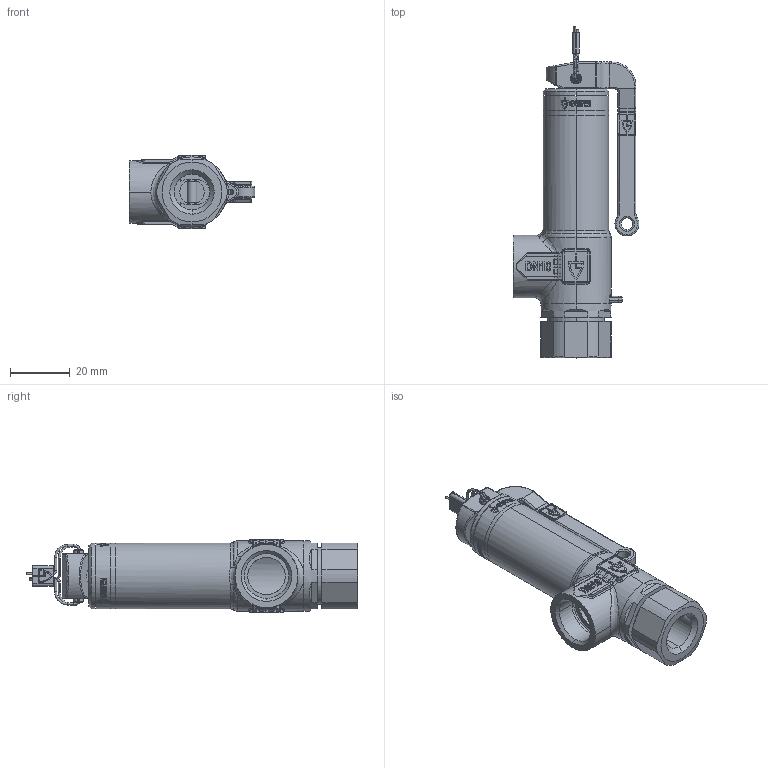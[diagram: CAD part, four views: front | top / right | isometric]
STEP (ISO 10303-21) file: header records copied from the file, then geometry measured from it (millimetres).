
FILE_DESCRIPTION (( 'STEP AP214' ), '1' );
FILE_NAME ('2400TGFL_8_FF_810.STEP', '2018-03-22T07:02:08', ( '' ), ( '' ), 'SwSTEP 2.0', 'SolidWorks 2016', '' );
FILE_SCHEMA (( 'AUTOMOTIVE_DESIGN' ));
Length unit declared in the file: millimetre
Products named in the file (1): 2400TGFL_8_FF_810
Bounding box: 42 x 110.7 x 24.6 mm (x, y, z)
Surface area: 12590.2 mm2 (no closed solid volume)
Topology: 0 solids, 11 shells, 696 faces, 2366 edges, 1705 vertices
Faces by surface type: cylinder 271, plane 257, bspline 73, torus 72, sphere 12, cone 11
Entity records: 39002 total; most frequent: CARTESIAN_POINT 10911, ORIENTED_EDGE 4344, DIRECTION 4095, EDGE_CURVE 2360, VERTEX_POINT 1705, AXIS2_PLACEMENT_3D 1481, LINE 1133, VECTOR 1133
